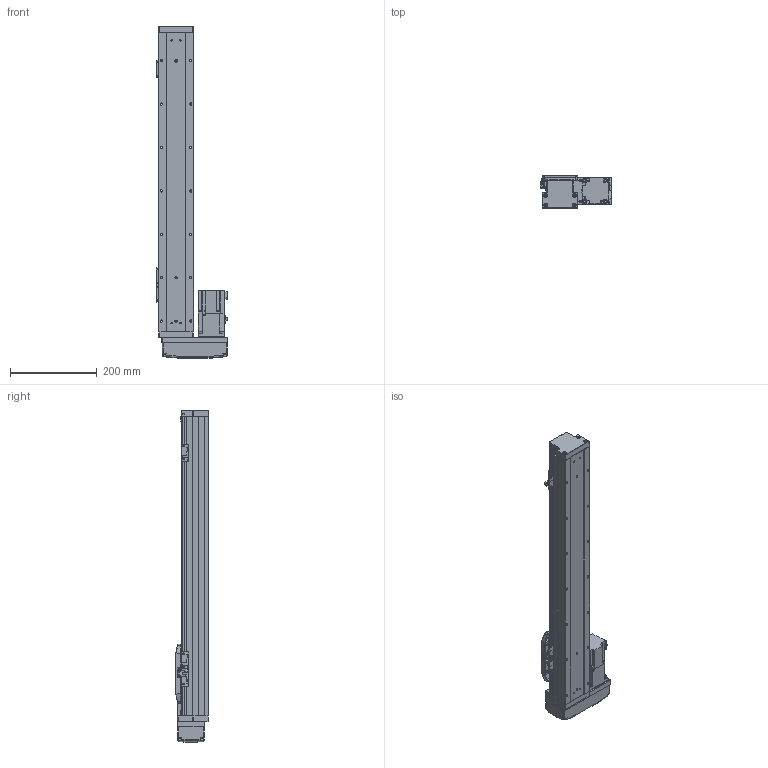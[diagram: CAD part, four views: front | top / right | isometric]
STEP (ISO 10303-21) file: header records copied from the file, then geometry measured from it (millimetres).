
FILE_DESCRIPTION (( 'STEP AP203' ), '1' );
FILE_NAME ('10.STEP', '2021-04-21T07:45:44', ( '' ), ( '' ), 'SwSTEP 2.0', 'SolidWorks 2016', '' );
FILE_SCHEMA (( 'CONFIG_CONTROL_DESIGN' ));
Length unit declared in the file: millimetre
Products named in the file (10): CTH8-BR-HZ; PM-Y45; CTH8-BR-05; CTH8-BR-T20; CTH8-BR-03; CTH8-BR-01; CTH8-BR-菁釱; 10; CTH8-BR-07; CTH8-BR-02
Assembly tree (14 placements, depth 2):
  10
    CTH8-BR-菁釱
    CTH8-BR-01
    CTH8-BR-02
    CTH8-BR-03
    CTH8-BR-07  x3
    CTH8-BR-HZ
    CTH8-BR-05  x2
    CTH8-BR-T20
    PM-Y45  x3
Bounding box: 165.5 x 78 x 765 mm (x, y, z)
Volume: 3435032.4 mm3; surface area: 543023.3 mm2
Topology: 30 solids, 30 shells, 1711 faces, 4523 edges, 2851 vertices
Faces by surface type: plane 821, cylinder 642, cone 152, bspline 66, torus 26, sphere 4
Entity records: 52135 total; most frequent: CARTESIAN_POINT 14596, ORIENTED_EDGE 7714, DIRECTION 7325, EDGE_CURVE 3857, AXIS2_PLACEMENT_3D 2528, VERTEX_POINT 2451, VECTOR 2269, LINE 2269
